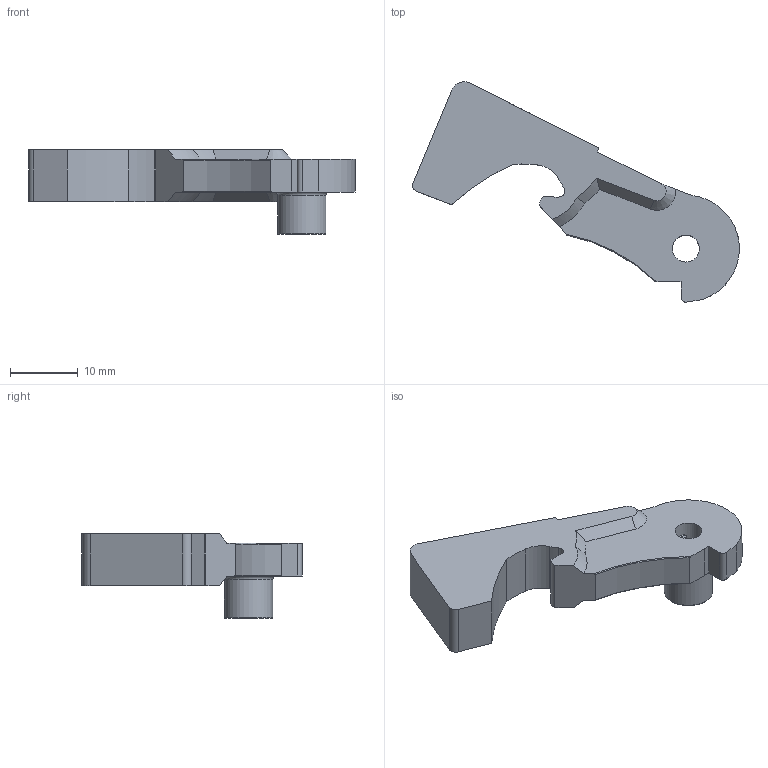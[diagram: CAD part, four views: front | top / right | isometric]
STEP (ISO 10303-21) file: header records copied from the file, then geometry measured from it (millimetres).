
FILE_DESCRIPTION(/* description */ (''),/* implementation_level */ '2;1');
FILE_NAME(/* name */ 'D:\~~GatCad\Ivan''s Printable Fire Control Group (AR15, FGC-9, etc)\CSGCG 3D Printable Fire Control Group\STEP\Standard Hammer V1.2.stp',/* time_stamp */ '2021-03-10T12:47:51-06:00',/* author */ ('johne'),/* organization */ (''),/* preprocessor_version */ 'ST-DEVELOPER v18',/* originating_system */ 'Autodesk Inventor 2020',/* authorisation */ '');
FILE_SCHEMA (('AUTOMOTIVE_DESIGN { 1 0 10303 214 3 1 1 }'));
Length unit declared in the file: millimetre
Products named in the file (1): Standard Hammer V1.1
Bounding box: 48.01 x 32.39 x 12.45 mm (x, y, z)
Volume: 3650.2 mm3; surface area: 2555.3 mm2
Topology: 1 solids, 1 shells, 64 faces, 170 edges, 111 vertices
Faces by surface type: cylinder 24, plane 23, torus 7, cone 6, bspline 4
Full cylindrical faces by diameter (mm): 0.813 x1, 3.9 x1, 3.962 x1, 7.112 x1, 7.366 x1
Entity records: 2290 total; most frequent: CARTESIAN_POINT 609, DIRECTION 355, ORIENTED_EDGE 340, EDGE_CURVE 170, AXIS2_PLACEMENT_3D 140, VERTEX_POINT 111, CIRCLE 77, LINE 75
